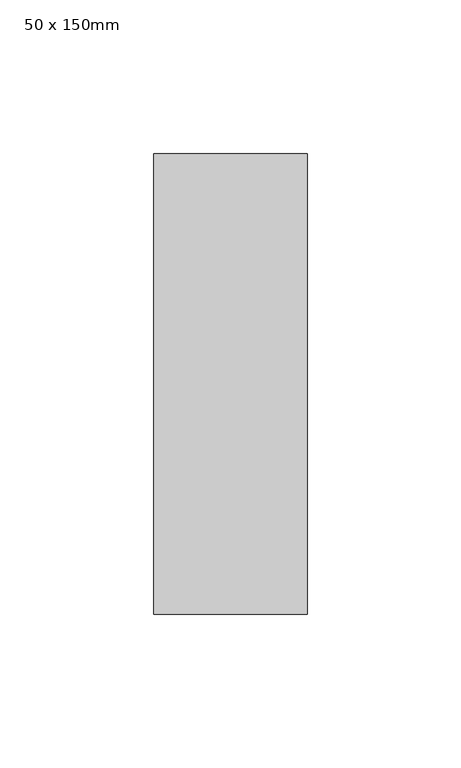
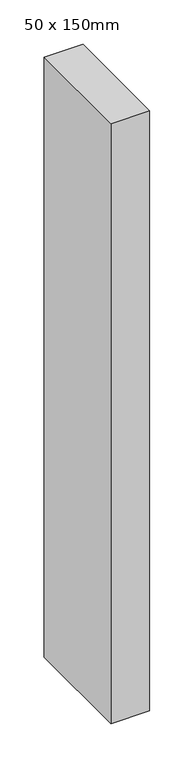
"""IFC4 building model written with IfcOpenShell, lengths in millimetres: member geometry, Прямоугольный импост : 50 x 150mm."""

from ifc_helpers import new_model, si_unit, frame, origin, place, context, project, spatial, polyline, outline, extrude, source, transform, mapped, element, save


def member_50_x_150mm_3d9b33cb(model_context):
    return source(origin(), model_context, "Body", "SweptSolid", [
        extrude(outline(polyline([(0.0, 75.0), (0.0, -75.0), (-50.0, -75.0), (-50.0, 75.0), (0.0, 75.0)])), frame((0.0, 0.0, -823.1234597), z_axis=(0.0, 0.0, 1.0), x_axis=(1.0, 0.0, 0.0)), (0.0, 0.0, 1.0), 823.1234597),
    ])


if __name__ == "__main__":
    model = new_model("IFC4")
    model_context = context("Model", 3, world=origin())
    ifc_project = project(units=[si_unit("LENGTHUNIT", "METRE", prefix="MILLI")], contexts=[model_context])
    site = spatial("IfcSite", under=ifc_project)
    building = spatial("IfcBuilding", under=site)
    placement = place(None, origin())
    member_50_x_150mm_shape = member_50_x_150mm_3d9b33cb(model_context)
    element("IfcMember", 1, ObjectType="Прямоугольный импост : 50 x 150mm", at=placement, inside=building, context=model_context, shape_type="MappedRepresentation", body=[
        mapped(member_50_x_150mm_shape, transform((0.0, 0.0, 0.0), x_axis=(1.0, 0.0, 0.0), y_axis=(0.0, 1.0, 0.0), z_axis=(0.0, 0.0, 1.0))),
    ])
    save(model, "model.ifc")
